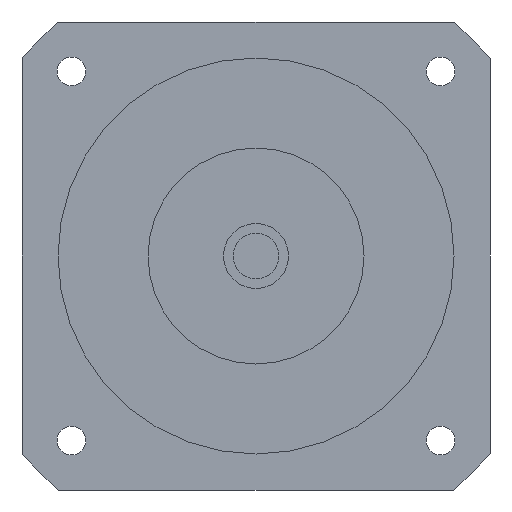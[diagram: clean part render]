
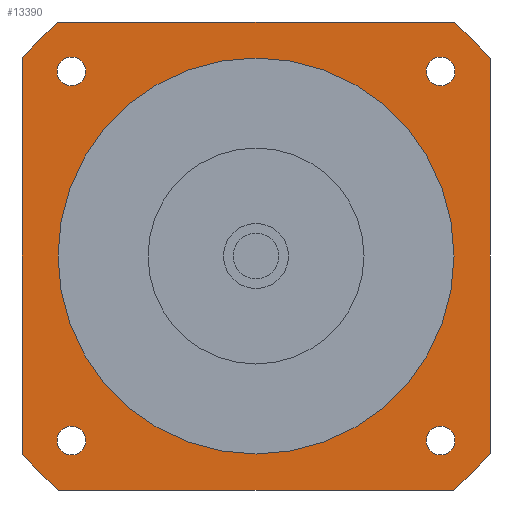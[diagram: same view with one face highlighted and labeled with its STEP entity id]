
A CAD part, left-side view. The second image highlights one B-rep face of the part: STEP entity #13390.
In plain terms, the highlighted planar face has unit normal (-1, 0, 0) as drawn and (0, 0, -1) by its records, which use the part's own axes.
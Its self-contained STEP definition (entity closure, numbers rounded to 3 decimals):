
#9280=CARTESIAN_POINT('',(65.,-54.772,-65.4));
#9290=VERTEX_POINT('',#9280);
#9340=CARTESIAN_POINT('',(0.,0.,
-65.4));
#9350=DIRECTION('',(0.,0.,-1.));
#9360=DIRECTION('',(1.,0.,0.));
#9370=AXIS2_PLACEMENT_3D('',#9340,#9350,#9360);
#9380=CIRCLE('',#9370,85.);
#9390=CARTESIAN_POINT('',(54.772,-65.,-65.4));
#9400=VERTEX_POINT('',#9390);
#9410=EDGE_CURVE('',#9290,#9400,#9380,.T.);
#11820=CARTESIAN_POINT('',(-51.265,-47.265,-65.4));
#11830=VERTEX_POINT('',#11820);
#11860=CARTESIAN_POINT('',(-51.265,-51.265,-65.4));
#11870=DIRECTION('',(0.,0.,-1.));
#11880=DIRECTION('',(0.,-1.,0.));
#11890=AXIS2_PLACEMENT_3D('',#11860,#11870,#11880);
#11900=CIRCLE('',#11890,4.);
#11910=CARTESIAN_POINT('',(-51.265,-55.265,-65.4));
#11920=VERTEX_POINT('',#11910);
#11930=EDGE_CURVE('',#11920,#11830,#11900,.T.);
#12050=CARTESIAN_POINT('',(65.,65.,-65.4));
#12060=DIRECTION('',(0.,0.,-1.));
#12070=DIRECTION('',(1.,0.,0.));
#12080=AXIS2_PLACEMENT_3D('',#12050,#12060,#12070);
#12090=PLANE('',#12080);
#12100=ORIENTED_EDGE('',*,*,#11930,.F.);
#12110=EDGE_CURVE('',#11830,#11920,#11900,.T.);
#12120=ORIENTED_EDGE('',*,*,#12110,.F.);
#12130=EDGE_LOOP('',(#12120,#12100));
#12140=FACE_BOUND('',#12130,.T.);
#12150=CARTESIAN_POINT('',(-51.265,51.265,-65.4));
#12160=DIRECTION('',(0.,0.,-1.));
#12170=DIRECTION('',(-1.,0.,0.));
#12180=AXIS2_PLACEMENT_3D('',#12150,#12160,#12170);
#12190=CIRCLE('',#12180,4.);
#12200=CARTESIAN_POINT('',(-55.265,51.265,-65.4));
#12210=VERTEX_POINT('',#12200);
#12220=CARTESIAN_POINT('',(-47.265,51.265,-65.4));
#12230=VERTEX_POINT('',#12220);
#12240=EDGE_CURVE('',#12210,#12230,#12190,.T.);
#12250=ORIENTED_EDGE('',*,*,#12240,.F.);
#12260=EDGE_CURVE('',#12230,#12210,#12190,.T.);
#12270=ORIENTED_EDGE('',*,*,#12260,.F.);
#12280=EDGE_LOOP('',(#12270,#12250));
#12290=FACE_BOUND('',#12280,.T.);
#12300=CARTESIAN_POINT('',(51.265,51.265,-65.4));
#12310=DIRECTION('',(0.,0.,-1.));
#12320=DIRECTION('',(0.,1.,0.));
#12330=AXIS2_PLACEMENT_3D('',#12300,#12310,#12320);
#12340=CIRCLE('',#12330,4.);
#12350=CARTESIAN_POINT('',(51.265,55.265,-65.4));
#12360=VERTEX_POINT('',#12350);
#12370=CARTESIAN_POINT('',(51.265,47.265,-65.4));
#12380=VERTEX_POINT('',#12370);
#12390=EDGE_CURVE('',#12360,#12380,#12340,.T.);
#12400=ORIENTED_EDGE('',*,*,#12390,.F.);
#12410=EDGE_CURVE('',#12380,#12360,#12340,.T.);
#12420=ORIENTED_EDGE('',*,*,#12410,.F.);
#12430=EDGE_LOOP('',(#12420,#12400));
#12440=FACE_BOUND('',#12430,.T.);
#12450=CARTESIAN_POINT('',(0.,0.,
-65.4));
#12460=DIRECTION('',(0.,0.,1.));
#12470=DIRECTION('',(0.,1.,0.));
#12480=AXIS2_PLACEMENT_3D('',#12450,#12460,#12470);
#12490=CIRCLE('',#12480,55.);
#12500=CARTESIAN_POINT('',(-55.,0.,-65.4));
#12510=VERTEX_POINT('',#12500);
#12520=CARTESIAN_POINT('',(55.,0.,-65.4));
#12530=VERTEX_POINT('',#12520);
#12540=EDGE_CURVE('',#12510,#12530,#12490,.T.);
#12550=ORIENTED_EDGE('',*,*,#12540,.T.);
#12560=CARTESIAN_POINT('',(0.,55.,-65.4));
#12570=VERTEX_POINT('',#12560);
#12580=EDGE_CURVE('',#12570,#12510,#12490,.T.);
#12590=ORIENTED_EDGE('',*,*,#12580,.T.);
#12600=EDGE_CURVE('',#12530,#12570,#12490,.T.);
#12610=ORIENTED_EDGE('',*,*,#12600,.T.);
#12620=EDGE_LOOP('',(#12610,#12590,#12550));
#12630=FACE_BOUND('',#12620,.T.);
#12640=CARTESIAN_POINT('',(-65.,65.,-65.4));
#12650=DIRECTION('',(1.,0.,0.));
#12660=VECTOR('',#12650,1000.);
#12670=LINE('',#12640,#12660);
#12680=CARTESIAN_POINT('',(-54.772,65.,-65.4));
#12690=VERTEX_POINT('',#12680);
#12700=CARTESIAN_POINT('',(54.772,65.,-65.4));
#12710=VERTEX_POINT('',#12700);
#12720=EDGE_CURVE('',#12690,#12710,#12670,.T.);
#12730=ORIENTED_EDGE('',*,*,#12720,.T.);
#12740=CARTESIAN_POINT('',(0.,0.,
-65.4));
#12750=DIRECTION('',(0.,0.,-1.));
#12760=DIRECTION('',(1.,0.,0.));
#12770=AXIS2_PLACEMENT_3D('',#12740,#12750,#12760);
#12780=CIRCLE('',#12770,85.);
#12790=CARTESIAN_POINT('',(-65.,54.772,-65.4));
#12800=VERTEX_POINT('',#12790);
#12810=EDGE_CURVE('',#12800,#12690,#12780,.T.);
#12820=ORIENTED_EDGE('',*,*,#12810,.T.);
#12830=CARTESIAN_POINT('',(-65.,-65.,-65.4));
#12840=DIRECTION('',(0.,1.,0.));
#12850=VECTOR('',#12840,1000.);
#12860=LINE('',#12830,#12850);
#12870=CARTESIAN_POINT('',(-65.,-54.772,-65.4));
#12880=VERTEX_POINT('',#12870);
#12890=EDGE_CURVE('',#12880,#12800,#12860,.T.);
#12900=ORIENTED_EDGE('',*,*,#12890,.T.);
#12910=CARTESIAN_POINT('',(0.,0.,
-65.4));
#12920=DIRECTION('',(0.,0.,-1.));
#12930=DIRECTION('',(1.,0.,0.));
#12940=AXIS2_PLACEMENT_3D('',#12910,#12920,#12930);
#12950=CIRCLE('',#12940,85.);
#12960=CARTESIAN_POINT('',(-54.772,-65.,-65.4));
#12970=VERTEX_POINT('',#12960);
#12980=EDGE_CURVE('',#12970,#12880,#12950,.T.);
#12990=ORIENTED_EDGE('',*,*,#12980,.T.);
#13000=CARTESIAN_POINT('',(65.,-65.,-65.4));
#13010=DIRECTION('',(-1.,0.,0.));
#13020=VECTOR('',#13010,1000.);
#13030=LINE('',#13000,#13020);
#13040=EDGE_CURVE('',#9400,#12970,#13030,.T.);
#13050=ORIENTED_EDGE('',*,*,#13040,.T.);
#13060=ORIENTED_EDGE('',*,*,#9410,.T.);
#13070=CARTESIAN_POINT('',(65.,65.,-65.4));
#13080=DIRECTION('',(0.,-1.,0.));
#13090=VECTOR('',#13080,1000.);
#13100=LINE('',#13070,#13090);
#13110=CARTESIAN_POINT('',(65.,54.772,-65.4));
#13120=VERTEX_POINT('',#13110);
#13130=EDGE_CURVE('',#13120,#9290,#13100,.T.);
#13140=ORIENTED_EDGE('',*,*,#13130,.T.);
#13150=CARTESIAN_POINT('',(0.,0.,
-65.4));
#13160=DIRECTION('',(0.,0.,-1.));
#13170=DIRECTION('',(1.,0.,0.));
#13180=AXIS2_PLACEMENT_3D('',#13150,#13160,#13170);
#13190=CIRCLE('',#13180,85.);
#13200=EDGE_CURVE('',#12710,#13120,#13190,.T.);
#13210=ORIENTED_EDGE('',*,*,#13200,.T.);
#13220=EDGE_LOOP('',(#13210,#13140,#13060,#13050,#12990,#12900,#12820,
#12730));
#13230=FACE_OUTER_BOUND('',#13220,.T.);
#13240=CARTESIAN_POINT('',(51.265,-51.265,-65.4));
#13250=DIRECTION('',(0.,0.,-1.));
#13260=DIRECTION('',(1.,0.,0.));
#13270=AXIS2_PLACEMENT_3D('',#13240,#13250,#13260);
#13280=CIRCLE('',#13270,4.);
#13290=CARTESIAN_POINT('',(55.265,-51.265,-65.4));
#13300=VERTEX_POINT('',#13290);
#13310=CARTESIAN_POINT('',(47.265,-51.265,-65.4));
#13320=VERTEX_POINT('',#13310);
#13330=EDGE_CURVE('',#13300,#13320,#13280,.T.);
#13340=ORIENTED_EDGE('',*,*,#13330,.F.);
#13350=EDGE_CURVE('',#13320,#13300,#13280,.T.);
#13360=ORIENTED_EDGE('',*,*,#13350,.F.);
#13370=EDGE_LOOP('',(#13360,#13340));
#13380=FACE_BOUND('',#13370,.T.);
#13390=ADVANCED_FACE('',(#12140,#12290,#12440,#12630,#13230,#13380),
#12090,.T.);
